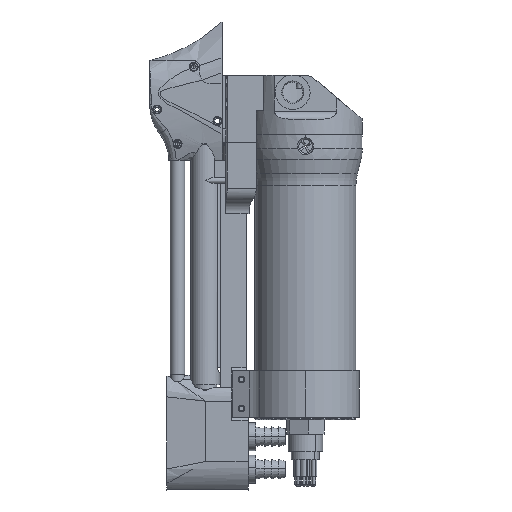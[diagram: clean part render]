
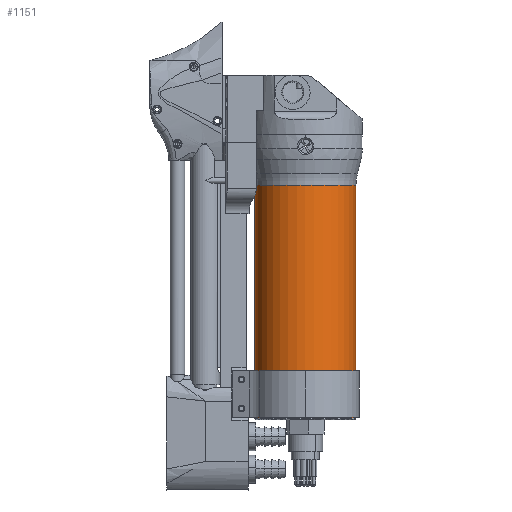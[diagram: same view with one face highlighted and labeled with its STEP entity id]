
A CAD part, left-side view. The second image highlights one B-rep face of the part: STEP entity #1151.
In plain terms, the highlighted cylindrical face has radius 27.686 mm (diameter 55.372 mm), a partial arc.
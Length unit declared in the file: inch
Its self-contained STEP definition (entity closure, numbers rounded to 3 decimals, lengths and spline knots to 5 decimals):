
#384 = EDGE_CURVE ( 'NONE', #23450, #10884, #8140, .T. ) ;
#840 = DIRECTION ( 'NONE',  ( 0., 0., 1. ) ) ;
#1151 = ADVANCED_FACE ( 'NONE', ( #20755 ), #19540, .T. ) ;
#1234 = DIRECTION ( 'NONE',  ( 1., 0., 0. ) ) ;
#1468 = CARTESIAN_POINT ( 'NONE',  ( 0., -0.75, -7.405 ) ) ;
#1865 = EDGE_CURVE ( 'NONE', #10884, #4520, #22780, .T. ) ;
#2452 = CARTESIAN_POINT ( 'NONE',  ( 0., -0.75, -2.37099 ) ) ;
#2710 = CARTESIAN_POINT ( 'NONE',  ( 0., -0.75, -1.28 ) ) ;
#4403 = EDGE_CURVE ( 'NONE', #20672, #15507, #12897, .T. ) ;
#4520 = VERTEX_POINT ( 'NONE', #15186 ) ;
#4809 = CARTESIAN_POINT ( 'NONE',  ( 0., -1.84, -1.28 ) ) ;
#5020 = CARTESIAN_POINT ( 'NONE',  ( -1.09, -0.75, -7.405 ) ) ;
#5669 = EDGE_CURVE ( 'NONE', #4520, #15507, #9855, .T. ) ;
#5675 = CARTESIAN_POINT ( 'NONE',  ( 0., -0.75, -7.405 ) ) ;
#6766 = CARTESIAN_POINT ( 'NONE',  ( 0., -1.84, -2.37099 ) ) ;
#7850 = CARTESIAN_POINT ( 'NONE',  ( 0., 0.34, -2.37099 ) ) ;
#8025 = VECTOR ( 'NONE', #840, 39.37008 ) ;
#8140 = CIRCLE ( 'NONE', #19289, 1.09 ) ;
#8358 = DIRECTION ( 'NONE',  ( 0., 0., 1. ) ) ;
#9410 = VECTOR ( 'NONE', #20363, 39.37008 ) ;
#9855 = LINE ( 'NONE', #4809, #8025 ) ;
#10232 = EDGE_LOOP ( 'NONE', ( #18800, #15159, #12995, #14181, #21455 ) ) ;
#10884 = VERTEX_POINT ( 'NONE', #5020 ) ;
#12629 = DIRECTION ( 'NONE',  ( 0., 0., 1. ) ) ;
#12897 = CIRCLE ( 'NONE', #14813, 1.09 ) ;
#12995 = ORIENTED_EDGE ( 'NONE', *, *, #1865, .T. ) ;
#14181 = ORIENTED_EDGE ( 'NONE', *, *, #5669, .T. ) ;
#14789 = DIRECTION ( 'NONE',  ( 0., 0., 1. ) ) ;
#14813 = AXIS2_PLACEMENT_3D ( 'NONE', #2452, #14951, #15313 ) ;
#14951 = DIRECTION ( 'NONE',  ( 0., 0., 1. ) ) ;
#15027 = DIRECTION ( 'NONE',  ( 1., 0., 0. ) ) ;
#15112 = EDGE_CURVE ( 'NONE', #23450, #20672, #22401, .T. ) ;
#15159 = ORIENTED_EDGE ( 'NONE', *, *, #384, .T. ) ;
#15186 = CARTESIAN_POINT ( 'NONE',  ( 0., -1.84, -7.405 ) ) ;
#15313 = DIRECTION ( 'NONE',  ( 0., -1., 0. ) ) ;
#15459 = DIRECTION ( 'NONE',  ( 0., -1., 0. ) ) ;
#15507 = VERTEX_POINT ( 'NONE', #6766 ) ;
#16749 = CARTESIAN_POINT ( 'NONE',  ( 0., 0.34, -1.28 ) ) ;
#18231 = CARTESIAN_POINT ( 'NONE',  ( 0., 0.34, -7.405 ) ) ;
#18800 = ORIENTED_EDGE ( 'NONE', *, *, #15112, .F. ) ;
#19289 = AXIS2_PLACEMENT_3D ( 'NONE', #1468, #12629, #1234 ) ;
#19540 = CYLINDRICAL_SURFACE ( 'NONE', #23142, 1.09 ) ;
#20363 = DIRECTION ( 'NONE',  ( 0., 0., 1. ) ) ;
#20672 = VERTEX_POINT ( 'NONE', #7850 ) ;
#20755 = FACE_OUTER_BOUND ( 'NONE', #10232, .T. ) ;
#21455 = ORIENTED_EDGE ( 'NONE', *, *, #4403, .F. ) ;
#22350 = AXIS2_PLACEMENT_3D ( 'NONE', #5675, #14789, #15027 ) ;
#22401 = LINE ( 'NONE', #16749, #9410 ) ;
#22780 = CIRCLE ( 'NONE', #22350, 1.09 ) ;
#23142 = AXIS2_PLACEMENT_3D ( 'NONE', #2710, #8358, #15459 ) ;
#23450 = VERTEX_POINT ( 'NONE', #18231 ) ;
